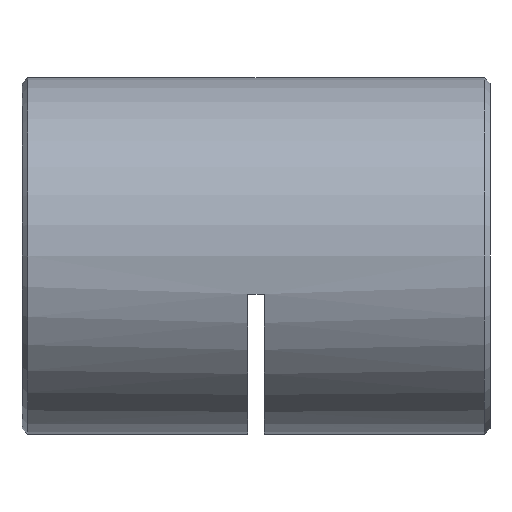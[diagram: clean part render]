
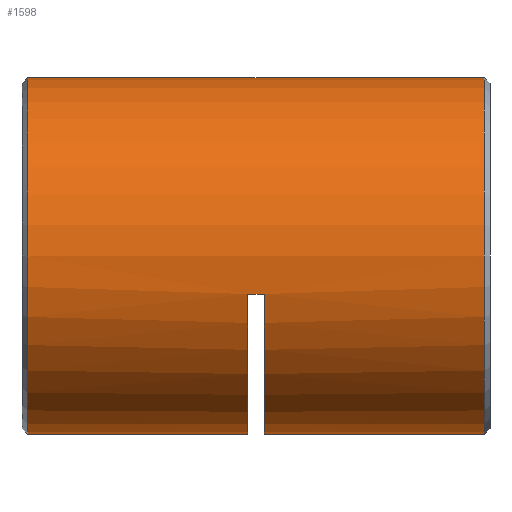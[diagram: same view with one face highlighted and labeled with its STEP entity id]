
A CAD part, left-side view. The second image highlights one B-rep face of the part: STEP entity #1598.
In plain terms, the highlighted cylindrical face has radius 16 mm (diameter 32 mm), a partial arc.
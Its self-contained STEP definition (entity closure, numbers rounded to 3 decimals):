
#12 = VERTEX_POINT ( 'NONE', #6234 ) ;
#69 = CARTESIAN_POINT ( 'NONE',  ( 0., 0.75, 0. ) ) ;
#83 = ORIENTED_EDGE ( 'NONE', *, *, #1162, .T. ) ;
#132 = LINE ( 'NONE', #3845, #3398 ) ;
#213 = ORIENTED_EDGE ( 'NONE', *, *, #482, .T. ) ;
#241 = VERTEX_POINT ( 'NONE', #5621 ) ;
#328 = CARTESIAN_POINT ( 'NONE',  ( -15.632, 22., -3.413 ) ) ;
#482 = EDGE_CURVE ( 'NONE', #1503, #241, #5469, .T. ) ;
#1012 = CARTESIAN_POINT ( 'NONE',  ( 0., 20.5, -16. ) ) ;
#1120 = EDGE_CURVE ( 'NONE', #12, #1503, #4446, .T. ) ;
#1156 = CARTESIAN_POINT ( 'NONE',  ( 0., 41.75, 0. ) ) ;
#1162 = EDGE_CURVE ( 'NONE', #5336, #4143, #2754, .T. ) ;
#1178 = DIRECTION ( 'NONE',  ( 0., 0., -1. ) ) ;
#1227 = CIRCLE ( 'NONE', #4820, 16. ) ;
#1313 = DIRECTION ( 'NONE',  ( 0., 0., -1. ) ) ;
#1325 = ORIENTED_EDGE ( 'NONE', *, *, #1120, .T. ) ;
#1418 = DIRECTION ( 'NONE',  ( 0., -1., 0. ) ) ;
#1453 = DIRECTION ( 'NONE',  ( 0., -1., 0. ) ) ;
#1503 = VERTEX_POINT ( 'NONE', #6223 ) ;
#1557 = DIRECTION ( 'NONE',  ( 0., 0., 1. ) ) ;
#1598 = ADVANCED_FACE ( 'NONE', ( #4685 ), #5831, .T. ) ;
#1635 = DIRECTION ( 'NONE',  ( 0., 1., 0. ) ) ;
#1666 = DIRECTION ( 'NONE',  ( 0., -1., 0. ) ) ;
#1683 = AXIS2_PLACEMENT_3D ( 'NONE', #5571, #3554, #1178 ) ;
#1795 = ORIENTED_EDGE ( 'NONE', *, *, #3734, .T. ) ;
#1854 = CARTESIAN_POINT ( 'NONE',  ( -15.632, 21.25, -3.413 ) ) ;
#2379 = DIRECTION ( 'NONE',  ( 0., -1., 0. ) ) ;
#2754 = CIRCLE ( 'NONE', #1683, 16. ) ;
#2845 = CARTESIAN_POINT ( 'NONE',  ( 0., 42.5, 0. ) ) ;
#3094 = LINE ( 'NONE', #1854, #5973 ) ;
#3373 = EDGE_CURVE ( 'NONE', #5826, #241, #1227, .T. ) ;
#3398 = VECTOR ( 'NONE', #3709, 1000. ) ;
#3554 = DIRECTION ( 'NONE',  ( 0., -1., 0. ) ) ;
#3599 = AXIS2_PLACEMENT_3D ( 'NONE', #2845, #1453, #6360 ) ;
#3624 = VERTEX_POINT ( 'NONE', #6085 ) ;
#3635 = EDGE_CURVE ( 'NONE', #12, #3624, #132, .T. ) ;
#3709 = DIRECTION ( 'NONE',  ( 0., -1., 0. ) ) ;
#3734 = EDGE_CURVE ( 'NONE', #5826, #5336, #3094, .T. ) ;
#3781 = EDGE_LOOP ( 'NONE', ( #4456, #1325, #213, #4513, #1795, #83, #5260, #6095 ) ) ;
#3826 = CARTESIAN_POINT ( 'NONE',  ( 0., 42.5, -16. ) ) ;
#3845 = CARTESIAN_POINT ( 'NONE',  ( 0., 42.5, 16. ) ) ;
#4143 = VERTEX_POINT ( 'NONE', #1012 ) ;
#4153 = VECTOR ( 'NONE', #1418, 1000. ) ;
#4446 = CIRCLE ( 'NONE', #6275, 16. ) ;
#4456 = ORIENTED_EDGE ( 'NONE', *, *, #3635, .F. ) ;
#4513 = ORIENTED_EDGE ( 'NONE', *, *, #3373, .F. ) ;
#4685 = FACE_OUTER_BOUND ( 'NONE', #3781, .T. ) ;
#4744 = EDGE_CURVE ( 'NONE', #4143, #5274, #5724, .T. ) ;
#4820 = AXIS2_PLACEMENT_3D ( 'NONE', #5185, #5639, #1313 ) ;
#4853 = EDGE_CURVE ( 'NONE', #5274, #3624, #5335, .T. ) ;
#5066 = DIRECTION ( 'NONE',  ( 0., -1., 0. ) ) ;
#5080 = CARTESIAN_POINT ( 'NONE',  ( -15.632, 20.5, -3.413 ) ) ;
#5185 = CARTESIAN_POINT ( 'NONE',  ( 0., 22., 0. ) ) ;
#5241 = AXIS2_PLACEMENT_3D ( 'NONE', #69, #1635, #1557 ) ;
#5260 = ORIENTED_EDGE ( 'NONE', *, *, #4744, .T. ) ;
#5274 = VERTEX_POINT ( 'NONE', #5382 ) ;
#5335 = CIRCLE ( 'NONE', #5241, 16. ) ;
#5336 = VERTEX_POINT ( 'NONE', #5080 ) ;
#5382 = CARTESIAN_POINT ( 'NONE',  ( 0., 0.75, -16. ) ) ;
#5469 = LINE ( 'NONE', #3826, #4153 ) ;
#5497 = CARTESIAN_POINT ( 'NONE',  ( 0., 42.5, -16. ) ) ;
#5543 = DIRECTION ( 'NONE',  ( 0., 0., -1. ) ) ;
#5571 = CARTESIAN_POINT ( 'NONE',  ( 0., 20.5, 0. ) ) ;
#5576 = VECTOR ( 'NONE', #5066, 1000. ) ;
#5621 = CARTESIAN_POINT ( 'NONE',  ( 0., 22., -16. ) ) ;
#5639 = DIRECTION ( 'NONE',  ( 0., -1., 0. ) ) ;
#5724 = LINE ( 'NONE', #5497, #5576 ) ;
#5826 = VERTEX_POINT ( 'NONE', #328 ) ;
#5831 = CYLINDRICAL_SURFACE ( 'NONE', #3599, 16. ) ;
#5973 = VECTOR ( 'NONE', #2379, 1000. ) ;
#6085 = CARTESIAN_POINT ( 'NONE',  ( 0., 0.75, 16. ) ) ;
#6095 = ORIENTED_EDGE ( 'NONE', *, *, #4853, .T. ) ;
#6223 = CARTESIAN_POINT ( 'NONE',  ( 0., 41.75, -16. ) ) ;
#6234 = CARTESIAN_POINT ( 'NONE',  ( 0., 41.75, 16. ) ) ;
#6275 = AXIS2_PLACEMENT_3D ( 'NONE', #1156, #1666, #5543 ) ;
#6360 = DIRECTION ( 'NONE',  ( 0., 0., -1. ) ) ;
